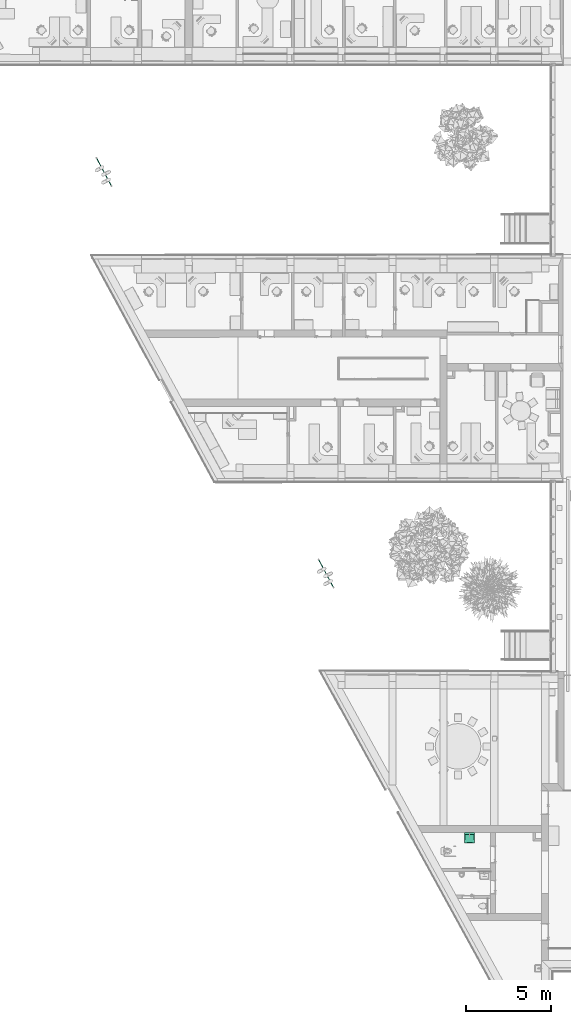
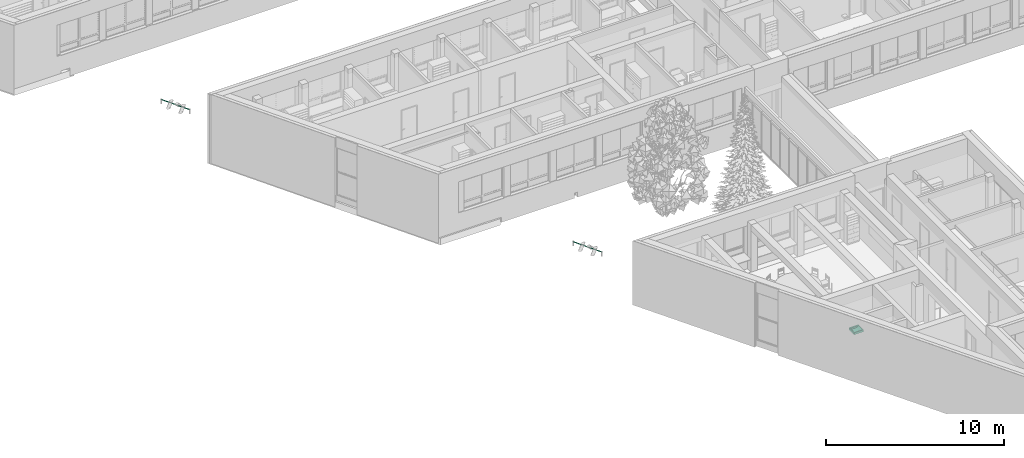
# One storey, part 123 of 194: 3 flow terminals.
"""IFC2X3 building model written with IfcOpenShell, lengths in millimetres."""

import ifcopenshell
import ifcopenshell.guid

model = None  # the IFC model being written
_history = None  # IfcOwnerHistory: only IFC2X3 demands one
_inside = {}  # id of a spatial element -> (the spatial element, [elements in it])
_under = {}  # id of a project, library or spatial element -> (it, [spatial elements below it])
_declared = {}  # id of a project -> (the project, [libraries it declares])
_typed = {}  # id of a type object -> (the type object, [elements of that type])
_made_of = {}  # id of a material, layer set ... -> (it, [elements and type objects made of it])


def new_model(schema):
    """Start an empty IFC model of exactly this schema.

    Asked for "IFC4X3", IfcOpenShell would pick the latest addendum, in which some entities
    have other attributes; the version numbers below select the first issue.
    IFC2X3 requires an IfcOwnerHistory on every rooted entity: one is made here for all.
    """
    global model, _history
    if schema == "IFC4X3":
        model = ifcopenshell.file(schema_version=(4, 3, 0, 0))
    else:
        model = ifcopenshell.file(schema=schema)
    _inside.clear()
    _under.clear()
    _declared.clear()
    _typed.clear()
    _made_of.clear()
    _history = None
    if model.schema == "IFC2X3":
        org = make("IfcOrganization", Name="unknown")
        user = make(
            "IfcPersonAndOrganization",
            ThePerson=make("IfcPerson", FamilyName="unknown"),
            TheOrganization=org,
        )
        app = make(
            "IfcApplication",
            ApplicationDeveloper=org,
            Version="unknown",
            ApplicationFullName="unknown",
            ApplicationIdentifier="unknown",
        )
        _history = make(
            "IfcOwnerHistory",
            OwningUser=user,
            OwningApplication=app,
            ChangeAction="ADDED",
            CreationDate=0,
        )
    return model


def make(cls, **values):
    """One entity of the class cls with the attributes given. An attribute that is None is left unset."""
    return model.create_entity(
        cls, **{name: value for name, value in values.items() if value is not None}
    )


def entity(cls, *values):
    """Any entity or typed value of the class cls, its attributes in the order of the schema. None: left unset."""
    e = model.create_entity(cls)
    for i, value in enumerate(values):
        if value is not None:
            e[i] = value
    return e


def rooted(cls, **values):
    """An entity with a GlobalId (a new one), such as an element, a storey or a relation."""
    return make(cls, GlobalId=ifcopenshell.guid.new(), OwnerHistory=_history, **values)


def si_unit(unit_type, name, prefix=None):
    """IfcSIUnit, for example si_unit("LENGTHUNIT", "METRE", prefix="MILLI")."""
    return make("IfcSIUnit", UnitType=unit_type, Prefix=prefix, Name=name)


def converted_unit(unit_type, name, factor, base, dimensions=None, offset=None):
    """IfcConversionBasedUnit, such as the inch: factor (a typed value) times the base unit."""
    return make(
        "IfcConversionBasedUnit"
        if offset is None
        else "IfcConversionBasedUnitWithOffset",
        ConversionOffset=offset,
        Dimensions=None
        if dimensions is None
        else entity("IfcDimensionalExponents", *dimensions),
        UnitType=unit_type,
        Name=name,
        ConversionFactor=make(
            "IfcMeasureWithUnit", ValueComponent=factor, UnitComponent=base
        ),
    )


def derived_unit(unit_type, elements):
    """IfcDerivedUnit: a product of units, each with its exponent."""
    return make(
        "IfcDerivedUnit",
        Elements=[
            make("IfcDerivedUnitElement", Unit=unit, Exponent=power)
            for unit, power in elements
        ],
        UnitType=unit_type,
    )


def money_unit(currency):
    """IfcMonetaryUnit."""
    return make("IfcMonetaryUnit", Currency=currency)


def assignment(units):
    """IfcUnitAssignment: the units of a project."""
    return None if units is None else make("IfcUnitAssignment", Units=units)


def point(xyz):
    """IfcCartesianPoint."""
    return None if xyz is None else make("IfcCartesianPoint", Coordinates=xyz)


def direction(xyz):
    """IfcDirection."""
    return None if xyz is None else make("IfcDirection", DirectionRatios=xyz)


def frame(location, z_axis=None, x_axis=None):
    """IfcAxis2Placement3D, a coordinate frame: its origin and axes. An axis left out is left unset."""
    return make(
        "IfcAxis2Placement3D",
        Location=point(location),
        Axis=direction(z_axis),
        RefDirection=direction(x_axis),
    )


def origin_with_axes():
    """The frame at (0, 0, 0) with the z axis (0, 0, 1) and the x axis (1, 0, 0) written out."""
    return frame((0.0, 0.0, 0.0), z_axis=(0.0, 0.0, 1.0), x_axis=(1.0, 0.0, 0.0))


def place(relative_to, where):
    """IfcLocalPlacement: puts the frame where relative to a parent placement (None: the world)."""
    return make(
        "IfcLocalPlacement", PlacementRelTo=relative_to, RelativePlacement=where
    )


def context(
    kind, dimensions, precision=None, world=None, true_north=None, identifier=None
):
    """IfcGeometricRepresentationContext, for example the 3D "Model" context."""
    return make(
        "IfcGeometricRepresentationContext",
        ContextIdentifier=identifier,
        ContextType=kind,
        CoordinateSpaceDimension=dimensions,
        Precision=precision,
        WorldCoordinateSystem=world,
        TrueNorth=true_north,
    )


def subcontext(parent, identifier, kind, view, scale=None):
    """IfcGeometricRepresentationSubContext, for example "Body" below "Model"."""
    return make(
        "IfcGeometricRepresentationSubContext",
        ContextIdentifier=identifier,
        ContextType=kind,
        ParentContext=parent,
        TargetScale=scale,
        TargetView=view,
    )


def project(units=None, contexts=None):
    """IfcProject with its units and contexts."""
    return rooted(
        "IfcProject",
        Name="project",
        RepresentationContexts=contexts,
        UnitsInContext=assignment(units),
    )


def spatial(cls, under=None, at=None, **own):
    """A site, building, storey or space (cls), placed at a placement, below another one or the project."""
    s = rooted(cls, ObjectPlacement=at, **own)
    if under is not None:
        _under.setdefault(under.id(), (under, []))[1].append(s)
    return s


def faces_of(points, faces, orient=None, outer=None):
    """IfcFace entities. A face is a list of loops; a loop is a list of indices into points, from 0.

    orient and outer hold one flag for each loop. By default every Orientation is true, the
    first loop of a face is its IfcFaceOuterBound and the others are IfcFaceBound.
    """
    made = []
    for i, loops in enumerate(faces):
        bounds = []
        for j, loop in enumerate(loops):
            is_outer = j == 0 if outer is None else outer[i][j]
            bounds.append(
                make(
                    "IfcFaceOuterBound" if is_outer else "IfcFaceBound",
                    Bound=make("IfcPolyLoop", Polygon=[points[k] for k in loop]),
                    Orientation=True if orient is None else orient[i][j],
                )
            )
        made.append(make("IfcFace", Bounds=bounds))
    return made


def open_shell(faces, orient=None, outer=None):
    """The faces of one IfcOpenShell. surface_model builds it on its shared points."""
    return ("IfcOpenShell", faces, orient, outer)


def faceted_brep(points, faces, orient=None, outer=None, voids=None):
    """IfcFacetedBrep: a solid bounded by flat faces; with voids (closed shells), ...WithVoids."""
    shared = [point(p) for p in points]
    hull = make("IfcClosedShell", CfsFaces=faces_of(shared, faces, orient, outer))
    if voids is None:
        return make("IfcFacetedBrep", Outer=hull)
    return make(
        "IfcFacetedBrepWithVoids",
        Outer=hull,
        Voids=[
            make(cls, CfsFaces=faces_of(shared, fs, o, b)) for cls, fs, o, b in voids
        ],
    )


def surface_model(cls, points, shells):
    """IfcFaceBasedSurfaceModel or IfcShellBasedSurfaceModel (cls): surfaces that need not close."""
    shared = [point(p) for p in points]
    made = [make(c, CfsFaces=faces_of(shared, fs, o, b)) for c, fs, o, b in shells]
    if cls == "IfcFaceBasedSurfaceModel":
        return make(cls, FbsmFaces=made)
    return make(cls, SbsmBoundary=made)


def shape(context_of_items, identifier, shape_type, items):
    """IfcShapeRepresentation: the items that make up one representation, for example the "Body"."""
    return make(
        "IfcShapeRepresentation",
        ContextOfItems=context_of_items,
        RepresentationIdentifier=identifier,
        RepresentationType=shape_type,
        Items=items,
    )


def material(Name=None, Category=None):
    """IfcMaterial."""
    return make("IfcMaterial", Name=Name, Category=Category)


def made_of(thing, what):
    """Note that an element or type object is made of a material, layer set ...; save() writes the relation."""
    if what is not None:
        _made_of.setdefault(what.id(), (what, []))[1].append(thing)
    return thing


def type_object(cls, material=None, **own):
    """A type object (cls), such as IfcWallType, which elements share."""
    return made_of(rooted(cls, **own), material)


def element(
    cls,
    number,
    at=None,
    inside=None,
    cuts=None,
    type_object=None,
    material=None,
    context=None,
    identifier="Body",
    shape_type=None,
    held_by="IfcProductDefinitionShape",
    body=None,
    shapes=None,
    **own,
):
    """One element of the class cls, such as IfcWall. Its Tag is "e" and its number.

    at: its placement. inside: the storey or other place that contains it. cuts: it is an
    opening in that element (IfcRelVoidsElement). A single representation is given by context,
    identifier, shape_type and body (its items); several are given by shapes. held_by: the class
    of the entity that holds the representations. save() writes the other relations.
    """
    e = rooted(cls, Tag="e%d" % number, ObjectPlacement=at, **own)
    if body is not None:
        shapes = [shape(context, identifier, shape_type, body)]
    if shapes is not None:
        e.Representation = make(held_by, Representations=shapes)
    if inside is not None:
        _inside.setdefault(inside.id(), (inside, []))[1].append(e)
    if cuts is not None:
        rooted(
            "IfcRelVoidsElement", RelatingBuildingElement=cuts, RelatedOpeningElement=e
        )
    if type_object is not None:
        _typed.setdefault(type_object.id(), (type_object, []))[1].append(e)
    return made_of(e, material)


def aggregate(whole, parts):
    """IfcRelAggregates: a whole, such as a stair, and the parts it consists of."""
    return rooted("IfcRelAggregates", RelatingObject=whole, RelatedObjects=parts)


def save(model, path):
    """Write the relations noted so far, then the file.

    IfcRelAggregates (storeys below a building ...), IfcRelContainedInSpatialStructure (elements
    in a storey), IfcRelDefinesByType, IfcRelAssociatesMaterial and IfcRelDeclares: one each for
    every whole, place, type object, material and project.
    """
    for whole, parts in _under.values():
        aggregate(whole, parts)
    for where, things in _inside.values():
        rooted(
            "IfcRelContainedInSpatialStructure",
            RelatedElements=things,
            RelatingStructure=where,
        )
    for kind, things in _typed.values():
        rooted("IfcRelDefinesByType", RelatedObjects=things, RelatingType=kind)
    for what, things in _made_of.values():
        rooted("IfcRelAssociatesMaterial", RelatedObjects=things, RelatingMaterial=what)
    for by, libraries in _declared.values():
        rooted("IfcRelDeclares", RelatingContext=by, RelatedDefinitions=libraries)
    model.write(path)


model = new_model("IFC2X3")

# Units and contexts
model_context = context("Model", 3, precision=1e-05, world=origin_with_axes(), true_north=direction((0.0, 1.0)))
body_context = subcontext(model_context, "Body", "Model", "MODEL_VIEW")
ifc_project = project(units=[si_unit("LENGTHUNIT", "METRE", prefix="MILLI"), si_unit("AREAUNIT", "SQUARE_METRE"), si_unit("VOLUMEUNIT", "CUBIC_METRE"), converted_unit("PLANEANGLEUNIT", "DEGREE", entity("IfcPlaneAngleMeasure", 0.0174532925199), si_unit("PLANEANGLEUNIT", "RADIAN"), dimensions=[0, 0, 0, 0, 0, 0, 0]), si_unit("SOLIDANGLEUNIT", "STERADIAN"), money_unit("EUR"), converted_unit("TIMEUNIT", "Year", entity("IfcTimeMeasure", 31556926.0), si_unit("TIMEUNIT", "SECOND"), dimensions=[0, 0, 1, 0, 0, 0, 0]), si_unit("MASSUNIT", "GRAM", prefix="KILO"), si_unit("THERMODYNAMICTEMPERATUREUNIT", "DEGREE_CELSIUS"), si_unit("LUMINOUSINTENSITYUNIT", "LUMEN"), si_unit("ENERGYUNIT", "JOULE", prefix="MEGA"), derived_unit("THERMALCONDUCTANCEUNIT", [(si_unit("POWERUNIT", "WATT"), 1), (si_unit("LENGTHUNIT", "METRE"), -1), (si_unit("THERMODYNAMICTEMPERATUREUNIT", "KELVIN"), -1)]), derived_unit("SPECIFICHEATCAPACITYUNIT", [(si_unit("ENERGYUNIT", "JOULE"), 1), (si_unit("MASSUNIT", "GRAM", prefix="KILO"), -1), (si_unit("THERMODYNAMICTEMPERATUREUNIT", "KELVIN"), -1)]), derived_unit("MASSDENSITYUNIT", [(si_unit("MASSUNIT", "GRAM", prefix="KILO"), 1), (si_unit("VOLUMEUNIT", "CUBIC_METRE"), -1)])], contexts=[model_context])

# Site, building, storey
site_placement = place(None, origin_with_axes())
site = spatial("IfcSite", under=ifc_project, at=site_placement, Name="Site", CompositionType="ELEMENT")
building_placement = place(site_placement, origin_with_axes())
building = spatial("IfcBuilding", under=site, at=building_placement, Name="Building", CompositionType="ELEMENT")
storey_placement = place(building_placement, frame((0.0, 0.0, 3000.0), z_axis=(0.0, 0.0, 1.0), x_axis=(1.0, 0.0, 0.0)))
storey = spatial("IfcBuildingStorey", under=building, at=storey_placement, Name="2 KORRUS", CompositionType="ELEMENT", Elevation=3000.0)

# Flow terminals
sanitary_terminal_type = type_object("IfcSanitaryTerminalType", Name="Basin 22", PredefinedType="NOTDEFINED")
flow_terminal_placement = place(storey_placement, frame((32483.3505096, 13483.9813304, -160.0), z_axis=(0.0, 0.0, 1.0), x_axis=(1.0, 0.0, 0.0)))
element("IfcFlowTerminal", 1, at=flow_terminal_placement, inside=storey, type_object=sanitary_terminal_type, Name="Valamu", context=body_context, shape_type="SurfaceModel", body=[
    faceted_brep([(-285.0, -600.0, 860.0), (-292.5, -597.990381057, 860.0), (-297.990381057, -592.5, 860.0), (-300.0, -585.0, 860.0), (-300.0, -15.0, 860.0), (-297.990381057, -7.5, 860.0), (-292.5, -2.00961894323, 860.0), (-285.0, 0.0, 860.0), (285.0, 0.0, 860.0), (292.5, -2.00961894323, 860.0), (297.990381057, -7.5, 860.0), (300.0, -15.0, 860.0), (300.0, -585.0, 860.0), (297.990381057, -592.5, 860.0), (292.5, -597.990381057, 860.0), (285.0, -600.0, 860.0), (270.0, -570.0, 860.0), (270.0, -110.0, 860.0), (-270.0, -110.0, 860.0), (-270.0, -570.0, 860.0), (-284.999999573, -600.00000039, 995.0), (-292.499999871, -597.990381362, 995.0), (-297.990381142, -592.500000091, 995.0), (-300.000000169, -584.999999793, 995.0), (-300.000000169, -15.0000004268, 995.0), (-297.990381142, -7.50000012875, 995.0), (-292.499999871, -2.0096188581, 995.0), (-284.999999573, 1.69277258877e-07, 995.0), (284.999999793, 1.69277258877e-07, 995.0), (292.500000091, -2.0096188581, 995.0), (297.990381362, -7.50000012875, 995.0), (300.00000039, -15.0000004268, 995.0), (300.00000039, -584.999999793, 995.0), (297.990381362, -592.500000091, 995.0), (292.500000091, -597.990381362, 995.0), (284.999999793, -600.00000039, 995.0), (270.0, -110.0, 999.999999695), (270.0, -570.0, 999.999999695), (-270.0, -110.0, 999.999999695), (-270.0, -570.0, 999.999999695), (-284.977569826, -599.829629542, 996.294095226), (-292.411809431, -597.837631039, 996.294095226), (-297.837630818, -592.411809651, 996.294095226), (-299.829629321, -584.977570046, 996.294095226), (-299.829629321, -15.0224301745, 996.294095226), (-297.837630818, -7.58819056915, 996.294095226), (-292.411809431, -2.16236918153, 996.294095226), (-284.977569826, -0.170370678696, 996.294095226), (284.977570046, -0.170370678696, 996.294095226), (292.411809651, -2.16236918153, 996.294095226), (297.837631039, -7.58819056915, 996.294095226), (299.829629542, -15.0224301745, 996.294095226), (299.829629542, -584.977570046, 996.294095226), (297.837631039, -592.411809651, 996.294095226), (292.411809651, -597.837631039, 996.294095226), (284.977570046, -599.829629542, 996.294095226), (284.34173768, -4.99999697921, 999.999999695), (-284.341737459, -4.99999697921, 999.999999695), (-289.911810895, -6.49249366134, 999.999999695), (-293.507506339, -10.0881891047, 999.999999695), (-295.000003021, -15.6582625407, 999.999999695), (-295.000003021, -584.34173768, 999.999999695), (-293.507506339, -589.911811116, 999.999999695), (-289.911810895, -593.507506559, 999.999999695), (-284.341737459, -595.000003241, 999.999999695), (284.34173768, -595.000003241, 999.999999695), (289.911811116, -593.507506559, 999.999999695), (293.507506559, -589.911811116, 999.999999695), (295.000003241, -584.34173768, 999.999999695), (295.000003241, -15.6582625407, 999.999999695), (293.507506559, -10.0881891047, 999.999999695), (289.911811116, -6.49249366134, 999.999999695), (-284.807198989, -598.535534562, 998.535533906), (-291.741936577, -596.677377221, 998.535533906), (-296.677377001, -591.741936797, 998.535533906), (-298.535534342, -584.807199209, 998.535533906), (-298.535534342, -15.192801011, 998.535533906), (-296.677377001, -8.25806342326, 998.535533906), (-291.741936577, -3.32262299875, 998.535533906), (-284.807198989, -1.46446565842, 998.535533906), (284.807199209, -1.46446565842, 998.535533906), (291.741936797, -3.32262299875, 998.535533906), (296.677377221, -8.25806342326, 998.535533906), (298.535534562, -15.192801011, 998.535533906), (298.535534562, -584.807199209, 998.535533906), (296.677377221, -591.741936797, 998.535533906), (291.741936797, -596.677377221, 998.535533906), (284.807199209, -598.535534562, 998.535533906), (284.512108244, -3.70590406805, 999.829629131), (-284.512108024, -3.70590406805, 999.829629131), (-290.581682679, -5.33224169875, 999.829629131), (-294.667758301, -9.41831732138, 999.829629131), (-296.294095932, -15.4878919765, 999.829629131), (-296.294095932, -584.512108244, 999.829629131), (-294.667758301, -590.581682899, 999.829629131), (-290.581682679, -594.667758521, 999.829629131), (-284.512108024, -596.294096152, 999.829629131), (284.512108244, -596.294096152, 999.829629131), (290.581682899, -594.667758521, 999.829629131), (294.667758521, -590.581682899, 999.829629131), (296.294096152, -584.512108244, 999.829629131), (296.294096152, -15.4878919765, 999.829629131), (294.667758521, -9.41831732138, 999.829629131), (290.581682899, -5.33224169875, 999.829629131)], [[[0, 1, 2, 3, 4, 5, 6, 7, 8, 9, 10, 11, 12, 13, 14, 15], [16, 17, 18, 19]], [[1, 0, 20, 21]], [[2, 1, 21, 22]], [[3, 2, 22, 23]], [[4, 3, 23, 24]], [[5, 4, 24, 25]], [[6, 5, 25, 26]], [[7, 6, 26, 27]], [[8, 7, 27, 28]], [[9, 8, 28, 29]], [[10, 9, 29, 30]], [[11, 10, 30, 31]], [[12, 11, 31, 32]], [[13, 12, 32, 33]], [[14, 13, 33, 34]], [[15, 14, 34, 35]], [[0, 15, 35, 20]], [[36, 17, 16, 37]], [[38, 18, 17, 36]], [[39, 19, 18, 38]], [[37, 16, 19, 39]], [[21, 20, 40, 41]], [[22, 21, 41, 42]], [[23, 22, 42, 43]], [[24, 23, 43, 44]], [[25, 24, 44, 45]], [[26, 25, 45, 46]], [[27, 26, 46, 47]], [[28, 27, 47, 48]], [[29, 28, 48, 49]], [[30, 29, 49, 50]], [[31, 30, 50, 51]], [[32, 31, 51, 52]], [[33, 32, 52, 53]], [[34, 33, 53, 54]], [[35, 34, 54, 55]], [[20, 35, 55, 40]], [[56, 57, 58, 59, 60, 61, 62, 63, 64, 65, 66, 67, 68, 69, 70, 71], [37, 39, 38, 36]], [[41, 40, 72, 73]], [[42, 41, 73, 74]], [[43, 42, 74, 75]], [[44, 43, 75, 76]], [[45, 44, 76, 77]], [[46, 45, 77, 78]], [[47, 46, 78, 79]], [[48, 47, 79, 80]], [[49, 48, 80, 81]], [[50, 49, 81, 82]], [[51, 50, 82, 83]], [[52, 51, 83, 84]], [[53, 52, 84, 85]], [[54, 53, 85, 86]], [[55, 54, 86, 87]], [[40, 55, 87, 72]], [[88, 89, 57, 56]], [[89, 90, 58, 57]], [[90, 91, 59, 58]], [[91, 92, 60, 59]], [[92, 93, 61, 60]], [[93, 94, 62, 61]], [[94, 95, 63, 62]], [[95, 96, 64, 63]], [[96, 97, 65, 64]], [[97, 98, 66, 65]], [[98, 99, 67, 66]], [[99, 100, 68, 67]], [[100, 101, 69, 68]], [[101, 102, 70, 69]], [[102, 103, 71, 70]], [[103, 88, 56, 71]], [[73, 72, 96, 95]], [[74, 73, 95, 94]], [[75, 74, 94, 93]], [[76, 75, 93, 92]], [[77, 76, 92, 91]], [[78, 77, 91, 90]], [[79, 78, 90, 89]], [[80, 79, 89, 88]], [[81, 80, 88, 103]], [[82, 81, 103, 102]], [[83, 82, 102, 101]], [[84, 83, 101, 100]], [[85, 84, 100, 99]], [[86, 85, 99, 98]], [[87, 86, 98, 97]], [[72, 87, 97, 96]]]),
    faceted_brep([(270.0, -570.0, 860.0), (-270.0, -570.0, 860.0), (-270.0, -110.0, 860.0), (270.0, -110.0, 860.0), (-12.5, -265.273635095, 860.0), (0.0, -268.623, 860.0), (12.5, -265.273635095, 860.0), (21.6506350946, -256.123, 860.0), (25.0, -243.623, 860.0), (21.6506350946, -231.123, 860.0), (12.5, -221.972364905, 860.0), (0.0, -218.623, 860.0), (-12.5, -221.972364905, 860.0), (-21.6506350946, -231.123, 860.0), (-25.0, -243.623, 860.0), (-21.6506350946, -256.123, 860.0), (135.0, -570.0, 1000.0), (90.0, -570.0, 1000.0), (45.0, -570.0, 1000.0), (0.0, -570.0, 1000.0), (-45.0, -570.0, 1000.0), (-90.0, -570.0, 1000.0), (-135.0, -570.0, 1000.0), (-180.0, -570.0, 1000.0), (-225.0, -570.0, 1000.0), (-270.0, -570.0, 1000.0), (270.0, -570.0, 1000.0), (225.0, -570.0, 1000.0), (180.0, -570.0, 1000.0), (-270.0, -294.0, 1000.0), (-270.0, -202.0, 1000.0), (-270.0, -110.0, 1000.0), (-270.0, -478.0, 1000.0), (-270.0, -386.0, 1000.0), (-135.0, -110.0, 922.600459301), (-90.0, -110.0, 909.888766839), (-45.0, -110.0, 902.449942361), (0.0, -110.0, 900.0), (45.0, -110.0, 902.449942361), (90.0, -110.0, 909.888766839), (135.0, -110.0, 922.600459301), (180.0, -110.0, 941.123179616), (225.0, -110.0, 966.383281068), (270.0, -110.0, 1000.0), (-225.0, -110.0, 966.383281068), (-180.0, -110.0, 941.123179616), (270.0, -386.0, 1000.0), (270.0, -478.0, 1000.0), (270.0, -202.0, 1000.0), (270.0, -294.0, 1000.0), (0.0, -268.623, 900.0), (-12.5, -265.273635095, 900.680539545), (12.5, -265.273635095, 900.680539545), (21.6506350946, -256.123, 901.178729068), (25.0, -243.623, 901.36107909), (21.6506350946, -231.123, 901.178729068), (12.5, -221.972364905, 900.680539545), (0.0, -218.623, 900.0), (-12.5, -221.972364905, 900.680539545), (-21.6506350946, -231.123, 901.178729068), (-25.0, -243.623, 901.36107909), (-21.6506350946, -256.123, 901.178729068), (90.0, -478.0, 959.698966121), (45.0, -478.0, 956.021333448), (0.0, -478.0, 954.799081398), (-45.0, -478.0, 956.021333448), (-90.0, -478.0, 959.698966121), (-135.0, -478.0, 965.865098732), (-180.0, -478.0, 974.576615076), (-225.0, -478.0, 985.916884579), (225.0, -478.0, 985.916884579), (180.0, -478.0, 974.576615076), (135.0, -478.0, 965.865098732), (-225.0, -294.0, 966.383281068), (-225.0, -202.0, 966.383281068), (-225.0, -386.0, 970.843379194), (-135.0, -202.0, 922.600459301), (-90.0, -202.0, 909.888766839), (-45.0, -202.0, 902.449942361), (0.0, -202.0, 900.0), (45.0, -202.0, 902.449942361), (90.0, -202.0, 909.888766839), (135.0, -202.0, 922.600459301), (180.0, -202.0, 941.123179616), (225.0, -202.0, 966.383281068), (-180.0, -202.0, 941.123179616), (225.0, -386.0, 970.843379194), (225.0, -294.0, 966.383281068), (-45.0, -294.0, 902.449942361), (0.0, -294.0, 900.0), (45.0, -294.0, 902.449942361), (-180.0, -294.0, 941.123179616), (-135.0, -294.0, 922.600459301), (-90.0, -294.0, 909.888766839), (90.0, -294.0, 909.888766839), (135.0, -294.0, 922.600459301), (180.0, -294.0, 941.123179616), (0.0, -386.0, 911.460400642), (45.0, -386.0, 913.686473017), (90.0, -386.0, 920.431203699), (-45.0, -386.0, 913.686473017), (-90.0, -386.0, 920.431203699), (-135.0, -386.0, 931.904485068), (-180.0, -386.0, 948.49465434), (180.0, -386.0, 948.49465434), (135.0, -386.0, 931.904485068)], [[[0, 1, 2, 3], [4, 5, 6, 7, 8, 9, 10, 11, 12, 13, 14, 15]], [[16, 17, 18, 19, 20, 21, 22, 23, 24, 25, 1, 0, 26, 27, 28]], [[29, 30, 31, 2, 1, 25, 32, 33]], [[34, 35, 36, 37, 38, 39, 40, 41, 42, 43, 3, 2, 31, 44, 45]], [[46, 47, 26, 0, 3, 43, 48, 49]], [[50, 5, 4, 51]], [[52, 6, 5, 50]], [[53, 7, 6, 52]], [[54, 8, 7, 53]], [[55, 9, 8, 54]], [[56, 10, 9, 55]], [[57, 11, 10, 56]], [[58, 12, 11, 57]], [[59, 13, 12, 58]], [[60, 14, 13, 59]], [[61, 15, 14, 60]], [[51, 4, 15, 61]], [[16, 62, 17]], [[17, 63, 18]], [[18, 64, 19]], [[19, 65, 20]], [[20, 66, 21]], [[21, 67, 22]], [[22, 68, 23]], [[23, 69, 24]], [[24, 32, 25]], [[26, 70, 27]], [[27, 71, 28]], [[28, 72, 16]], [[29, 73, 74, 30]], [[30, 74, 44, 31]], [[69, 33, 32]], [[75, 29, 33]], [[76, 77, 35, 34]], [[77, 78, 36, 35]], [[78, 79, 37, 36]], [[79, 80, 38, 37]], [[80, 81, 39, 38]], [[81, 82, 40, 39]], [[82, 83, 41, 40]], [[83, 84, 42, 41]], [[84, 48, 43, 42]], [[74, 85, 45, 44]], [[85, 76, 34, 45]], [[47, 46, 86]], [[26, 47, 70]], [[87, 49, 48, 84]], [[46, 49, 87]], [[58, 57, 79, 78, 88, 89, 50, 51, 61, 60, 59]], [[56, 55, 54, 53, 52, 50, 89, 90, 80, 79, 57]], [[16, 72, 62]], [[17, 62, 63]], [[18, 63, 64]], [[19, 64, 65]], [[20, 65, 66]], [[21, 66, 67]], [[22, 67, 68]], [[23, 68, 69]], [[24, 69, 32]], [[27, 70, 71]], [[28, 71, 72]], [[75, 73, 29]], [[73, 91, 85, 74]], [[69, 75, 33]], [[92, 93, 77, 76]], [[93, 88, 78, 77]], [[90, 94, 81, 80]], [[94, 95, 82, 81]], [[95, 96, 83, 82]], [[96, 87, 84, 83]], [[91, 92, 76, 85]], [[46, 87, 86]], [[47, 86, 70]], [[97, 89, 88]], [[98, 90, 89]], [[72, 99, 62]], [[62, 98, 63]], [[63, 97, 64]], [[64, 100, 65]], [[65, 101, 66]], [[66, 102, 67]], [[67, 103, 68]], [[68, 75, 69]], [[70, 104, 71]], [[71, 105, 72]], [[103, 73, 75]], [[103, 91, 73]], [[101, 93, 92]], [[100, 88, 93]], [[99, 94, 90]], [[105, 95, 94]], [[104, 96, 95]], [[86, 87, 96]], [[102, 92, 91]], [[70, 86, 104]], [[98, 89, 97]], [[97, 88, 100]], [[99, 90, 98]], [[72, 105, 99]], [[62, 99, 98]], [[63, 98, 97]], [[64, 97, 100]], [[65, 100, 101]], [[66, 101, 102]], [[67, 102, 103]], [[68, 103, 75]], [[71, 104, 105]], [[102, 91, 103]], [[100, 93, 101]], [[101, 92, 102]], [[105, 94, 99]], [[104, 95, 105]], [[86, 96, 104]]]),
    faceted_brep([(-21.6506350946, -256.123, 900.0), (-25.0, -243.623, 900.0), (-21.6506350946, -231.123, 900.0), (-12.5, -221.972364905, 900.0), (0.0, -218.623, 900.0), (12.5, -221.972364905, 900.0), (21.6506350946, -231.123, 900.0), (25.0, -243.623, 900.0), (21.6506350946, -256.123, 900.0), (12.5, -265.273635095, 900.0), (0.0, -268.623, 900.0), (-12.5, -265.273635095, 900.0), (-21.6506350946, -256.123, 905.0), (-25.0, -243.623, 905.0), (-21.6506350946, -231.123, 905.0), (-12.5, -221.972364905, 905.0), (0.0, -218.623, 905.0), (12.5, -221.972364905, 905.0), (21.6506350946, -231.123, 905.0), (25.0, -243.623, 905.0), (21.6506350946, -256.123, 905.0), (12.5, -265.273635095, 905.0), (0.0, -268.623, 905.0), (-12.5, -265.273635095, 905.0)], [[[0, 1, 2, 3, 4, 5, 6, 7, 8, 9, 10, 11]], [[0, 12, 13, 1]], [[1, 13, 14, 2]], [[2, 14, 15, 3]], [[3, 15, 16, 4]], [[4, 16, 17, 5]], [[5, 17, 18, 6]], [[6, 18, 19, 7]], [[7, 19, 20, 8]], [[8, 20, 21, 9]], [[9, 21, 22, 10]], [[10, 22, 23, 11]], [[11, 23, 12, 0]], [[12, 23, 22, 21, 20, 19, 18, 17, 16, 15, 14, 13]]]),
    surface_model("IfcShellBasedSurfaceModel", [(0.0, -243.623, 907.0), (6.31095278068, -232.69210914, 906.49757372), (0.0, -231.001094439, 906.49757372), (10.9308908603, -237.312047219, 906.49757372), (12.5, -221.972364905, 905.0), (0.0, -218.623, 905.0), (-6.31095278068, -232.69210914, 906.49757372), (12.6219055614, -243.623, 906.49757372), (21.6506350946, -231.123, 905.0), (-12.5, -221.972364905, 905.0), (-10.9308908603, -237.312047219, 906.49757372), (10.9308908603, -249.933952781, 906.49757372), (25.0, -243.623, 905.0), (-21.6506350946, -231.123, 905.0), (-12.6219055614, -243.623, 906.49757372), (6.31095278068, -254.55389086, 906.49757372), (21.6506350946, -256.123, 905.0), (-25.0, -243.623, 905.0), (-10.9308908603, -249.933952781, 906.49757372), (0.0, -256.244905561, 906.49757372), (12.5, -265.273635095, 905.0), (-21.6506350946, -256.123, 905.0), (-6.31095278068, -254.55389086, 906.49757372), (0.0, -268.623, 905.0), (-12.5, -265.273635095, 905.0)], [open_shell([[[0, 1, 2]], [[0, 3, 1]], [[1, 4, 5, 2]], [[0, 2, 6]], [[0, 7, 3]], [[3, 8, 4, 1]], [[2, 5, 9, 6]], [[0, 6, 10]], [[0, 11, 7]], [[7, 12, 8, 3]], [[6, 9, 13, 10]], [[0, 10, 14]], [[0, 15, 11]], [[11, 16, 12, 7]], [[10, 13, 17, 14]], [[0, 14, 18]], [[0, 19, 15]], [[15, 20, 16, 11]], [[14, 17, 21, 18]], [[0, 18, 22]], [[0, 22, 19]], [[19, 23, 20, 15]], [[18, 21, 24, 22]], [[22, 24, 23, 19]]])]),
])
ifc_material = material(Name="Teras (1)")
light_fixture_type = type_object("IfcLightFixtureType", Name="CHS Cold-Formed Beam 22", PredefinedType="NOTDEFINED")
for number, where, z_axis, x_axis, name in (
    (2, (23577.5538598, 29610.0035039, -60.3), (0.0, 0.0, 1.0), (0.46907413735, -0.883158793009, 0.0), "FU - 002"),
    (3, (10500.1630894, 53252.4623898, -60.3), (0.0, 0.0, 1.0), (0.46907413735, -0.883158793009, 0.0), "FU - 002"),
):
    element("IfcFlowTerminal", number, at=place(storey_placement, frame(where, z_axis=z_axis, x_axis=x_axis)), inside=storey, type_object=light_fixture_type, material=ifc_material, Name=name, context=body_context, shape_type="Brep", body=[
        faceted_brep([(0.0, 30.15, 30.15), (0.0, 21.3192694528, 51.4692694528), (1944.58973315, 21.3192694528, 51.4692694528), (1944.58973315, 30.15, 30.15), (0.0, 21.3192694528, 8.83073054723), (0.0, 0.0, 0.0), (0.0, -21.3192694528, 8.83073054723), (0.0, -30.15, 30.15), (0.0, -21.3192694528, 51.4692694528), (0.0, 0.0, 60.3), (0.0, 27.65, 30.15), (0.0, 19.5515024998, 49.7015024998), (0.0, 0.0, 57.8), (0.0, -19.5515024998, 49.7015024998), (0.0, -27.65, 30.15), (0.0, -19.5515024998, 10.5984975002), (0.0, 0.0, 2.5), (0.0, 19.5515024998, 10.5984975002), (1944.58973315, 0.0, 60.3), (1944.58973315, -21.3192694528, 51.4692694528), (1944.58973315, -30.15, 30.15), (1944.58973315, -21.3192694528, 8.83073054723), (1944.58973315, 0.0, 0.0), (1944.58973315, 21.3192694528, 8.83073054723), (1944.58973315, 27.65, 30.15), (1944.58973315, 19.5515024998, 10.5984975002), (1944.58973315, 0.0, 2.5), (1944.58973315, -19.5515024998, 10.5984975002), (1944.58973315, -27.65, 30.15), (1944.58973315, -19.5515024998, 49.7015024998), (1944.58973315, 0.0, 57.8), (1944.58973315, 19.5515024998, 49.7015024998)], [[[0, 1, 2, 3]], [[0, 4, 5, 6, 7, 8, 9, 1], [10, 11, 12, 13, 14, 15, 16, 17]], [[1, 9, 18, 2]], [[3, 2, 18, 19, 20, 21, 22, 23], [24, 25, 26, 27, 28, 29, 30, 31]], [[4, 0, 3, 23]], [[5, 4, 23, 22]], [[6, 5, 22, 21]], [[7, 6, 21, 20]], [[8, 7, 20, 19]], [[9, 8, 19, 18]], [[11, 10, 24, 31]], [[12, 11, 31, 30]], [[13, 12, 30, 29]], [[14, 13, 29, 28]], [[15, 14, 28, 27]], [[16, 15, 27, 26]], [[17, 16, 26, 25]], [[10, 17, 25, 24]]]),
    ])

save(model, "model.ifc")
